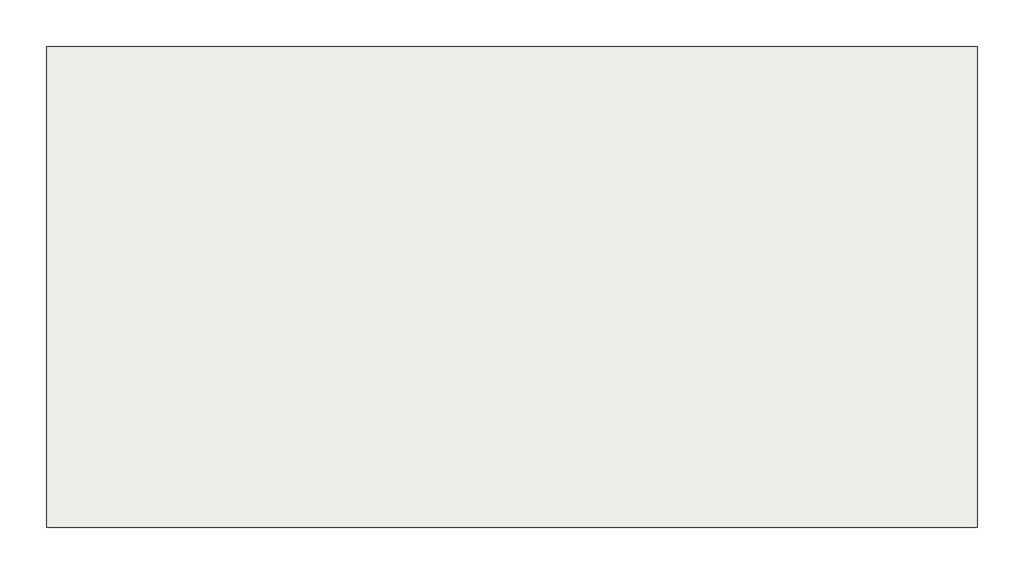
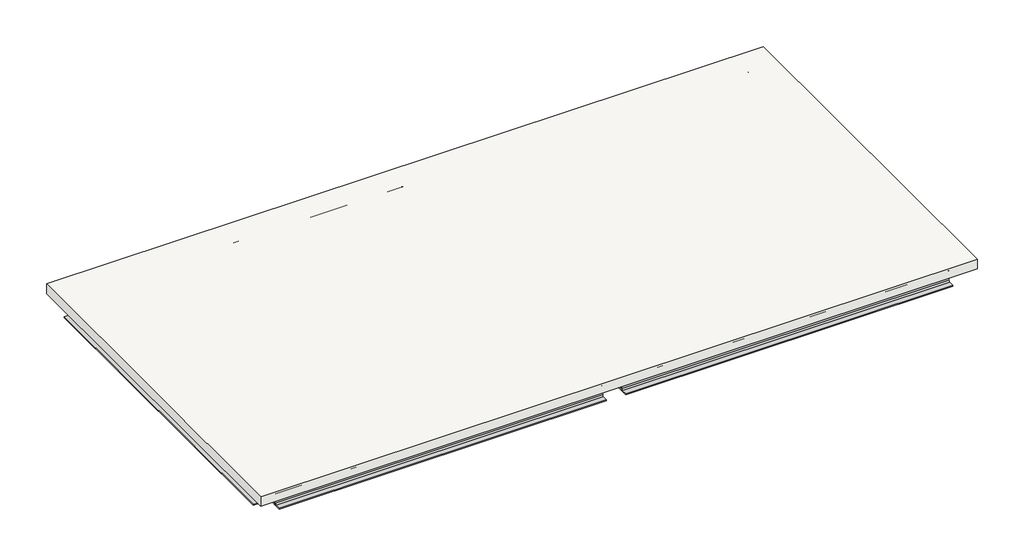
# One storey: 7 beams, 1 slab.
"""IFC4 building model written with IfcOpenShell, lengths in millimetres."""

import ifcopenshell
import ifcopenshell.guid

model = None  # the IFC model being written
_history = None  # IfcOwnerHistory: only IFC2X3 demands one
_inside = {}  # id of a spatial element -> (the spatial element, [elements in it])
_under = {}  # id of a project, library or spatial element -> (it, [spatial elements below it])
_declared = {}  # id of a project -> (the project, [libraries it declares])
_typed = {}  # id of a type object -> (the type object, [elements of that type])
_made_of = {}  # id of a material, layer set ... -> (it, [elements and type objects made of it])


def new_model(schema):
    """Start an empty IFC model of exactly this schema.

    Asked for "IFC4X3", IfcOpenShell would pick the latest addendum, in which some entities
    have other attributes; the version numbers below select the first issue.
    IFC2X3 requires an IfcOwnerHistory on every rooted entity: one is made here for all.
    """
    global model, _history
    if schema == "IFC4X3":
        model = ifcopenshell.file(schema_version=(4, 3, 0, 0))
    else:
        model = ifcopenshell.file(schema=schema)
    _inside.clear()
    _under.clear()
    _declared.clear()
    _typed.clear()
    _made_of.clear()
    _history = None
    if model.schema == "IFC2X3":
        org = make("IfcOrganization", Name="unknown")
        user = make(
            "IfcPersonAndOrganization",
            ThePerson=make("IfcPerson", FamilyName="unknown"),
            TheOrganization=org,
        )
        app = make(
            "IfcApplication",
            ApplicationDeveloper=org,
            Version="unknown",
            ApplicationFullName="unknown",
            ApplicationIdentifier="unknown",
        )
        _history = make(
            "IfcOwnerHistory",
            OwningUser=user,
            OwningApplication=app,
            ChangeAction="ADDED",
            CreationDate=0,
        )
    return model


def make(cls, **values):
    """One entity of the class cls with the attributes given. An attribute that is None is left unset."""
    return model.create_entity(
        cls, **{name: value for name, value in values.items() if value is not None}
    )


def rooted(cls, **values):
    """An entity with a GlobalId (a new one), such as an element, a storey or a relation."""
    return make(cls, GlobalId=ifcopenshell.guid.new(), OwnerHistory=_history, **values)


def si_unit(unit_type, name, prefix=None):
    """IfcSIUnit, for example si_unit("LENGTHUNIT", "METRE", prefix="MILLI")."""
    return make("IfcSIUnit", UnitType=unit_type, Prefix=prefix, Name=name)


def assignment(units):
    """IfcUnitAssignment: the units of a project."""
    return None if units is None else make("IfcUnitAssignment", Units=units)


def point(xyz):
    """IfcCartesianPoint."""
    return None if xyz is None else make("IfcCartesianPoint", Coordinates=xyz)


def direction(xyz):
    """IfcDirection."""
    return None if xyz is None else make("IfcDirection", DirectionRatios=xyz)


def frame(location, z_axis=None, x_axis=None):
    """IfcAxis2Placement3D, a coordinate frame: its origin and axes. An axis left out is left unset."""
    return make(
        "IfcAxis2Placement3D",
        Location=point(location),
        Axis=direction(z_axis),
        RefDirection=direction(x_axis),
    )


def frame_2d(location, x_axis=None):
    """IfcAxis2Placement2D, a coordinate frame in the plane: its origin and x axis."""
    return make(
        "IfcAxis2Placement2D", Location=point(location), RefDirection=direction(x_axis)
    )


def origin():
    """The frame at (0, 0, 0) with its axes left unset."""
    return frame((0.0, 0.0, 0.0))


def place(relative_to, where):
    """IfcLocalPlacement: puts the frame where relative to a parent placement (None: the world)."""
    return make(
        "IfcLocalPlacement", PlacementRelTo=relative_to, RelativePlacement=where
    )


def context(
    kind, dimensions, precision=None, world=None, true_north=None, identifier=None
):
    """IfcGeometricRepresentationContext, for example the 3D "Model" context."""
    return make(
        "IfcGeometricRepresentationContext",
        ContextIdentifier=identifier,
        ContextType=kind,
        CoordinateSpaceDimension=dimensions,
        Precision=precision,
        WorldCoordinateSystem=world,
        TrueNorth=true_north,
    )


def project(units=None, contexts=None):
    """IfcProject with its units and contexts."""
    return rooted(
        "IfcProject",
        Name="project",
        RepresentationContexts=contexts,
        UnitsInContext=assignment(units),
    )


def spatial(cls, under=None, at=None, **own):
    """A site, building, storey or space (cls), placed at a placement, below another one or the project."""
    s = rooted(cls, ObjectPlacement=at, **own)
    if under is not None:
        _under.setdefault(under.id(), (under, []))[1].append(s)
    return s


def polyline(points):
    """IfcPolyline through the points."""
    return make("IfcPolyline", Points=[point(p) for p in points])


def circle_curve(where, radius):
    """IfcCircle in the frame where."""
    return make("IfcCircle", Position=where, Radius=radius)


def trimmed(basis, trim1, trim2, sense, master):
    """IfcTrimmedCurve: the piece of a basis curve between two trims."""
    return make(
        "IfcTrimmedCurve",
        BasisCurve=basis,
        Trim1=trim1,
        Trim2=trim2,
        SenseAgreement=sense,
        MasterRepresentation=master,
    )


def segment(curve, same_sense, transition):
    """IfcCompositeCurveSegment."""
    return make(
        "IfcCompositeCurveSegment",
        Transition=transition,
        SameSense=same_sense,
        ParentCurve=curve,
    )


def composite_curve(segments, self_intersect=None):
    """IfcCompositeCurve: segments joined end to end."""
    return make("IfcCompositeCurve", Segments=segments, SelfIntersect=self_intersect)


def outline(outer, holes=None, kind="AREA"):
    """IfcArbitraryClosedProfileDef: a profile drawn as a closed curve; with holes, ...WithVoids."""
    if holes is None:
        return make("IfcArbitraryClosedProfileDef", ProfileType=kind, OuterCurve=outer)
    return make(
        "IfcArbitraryProfileDefWithVoids",
        ProfileType=kind,
        OuterCurve=outer,
        InnerCurves=holes,
    )


def extrude(swept, where, along, depth):
    """IfcExtrudedAreaSolid: the profile swept, set in the frame where, extruded along a direction by depth."""
    return make(
        "IfcExtrudedAreaSolid",
        SweptArea=swept,
        Position=where,
        ExtrudedDirection=direction(along),
        Depth=depth,
    )


def shape(context_of_items, identifier, shape_type, items):
    """IfcShapeRepresentation: the items that make up one representation, for example the "Body"."""
    return make(
        "IfcShapeRepresentation",
        ContextOfItems=context_of_items,
        RepresentationIdentifier=identifier,
        RepresentationType=shape_type,
        Items=items,
    )


def source(mapping_origin, context_of_items, identifier, shape_type, items):
    """IfcRepresentationMap: a shape defined once, which mapped items show again and again."""
    return make(
        "IfcRepresentationMap",
        MappingOrigin=mapping_origin,
        MappedRepresentation=shape(context_of_items, identifier, shape_type, items),
    )


def transform(
    local_origin,
    x_axis=None,
    y_axis=None,
    z_axis=None,
    scale=None,
    scale2=None,
    scale3=None,
    uniform=True,
):
    """IfcCartesianTransformationOperator3D, or its non-uniform kind. x_axis, y_axis, z_axis: its Axis1, 2, 3."""
    if uniform:
        return make(
            "IfcCartesianTransformationOperator3D",
            Axis1=direction(x_axis),
            Axis2=direction(y_axis),
            LocalOrigin=point(local_origin),
            Scale=scale,
            Axis3=direction(z_axis),
        )
    return make(
        "IfcCartesianTransformationOperator3DnonUniform",
        Axis1=direction(x_axis),
        Axis2=direction(y_axis),
        LocalOrigin=point(local_origin),
        Scale=scale,
        Axis3=direction(z_axis),
        Scale2=scale2,
        Scale3=scale3,
    )


def mapped(mapping_source, mapping_target):
    """IfcMappedItem: shows the shape of a source again, moved by a transform."""
    return make(
        "IfcMappedItem", MappingSource=mapping_source, MappingTarget=mapping_target
    )


def made_of(thing, what):
    """Note that an element or type object is made of a material, layer set ...; save() writes the relation."""
    if what is not None:
        _made_of.setdefault(what.id(), (what, []))[1].append(thing)
    return thing


def element(
    cls,
    number,
    at=None,
    inside=None,
    cuts=None,
    type_object=None,
    material=None,
    context=None,
    identifier="Body",
    shape_type=None,
    held_by="IfcProductDefinitionShape",
    body=None,
    shapes=None,
    **own,
):
    """One element of the class cls, such as IfcWall. Its Tag is "e" and its number.

    at: its placement. inside: the storey or other place that contains it. cuts: it is an
    opening in that element (IfcRelVoidsElement). A single representation is given by context,
    identifier, shape_type and body (its items); several are given by shapes. held_by: the class
    of the entity that holds the representations. save() writes the other relations.
    """
    e = rooted(cls, Tag="e%d" % number, ObjectPlacement=at, **own)
    if body is not None:
        shapes = [shape(context, identifier, shape_type, body)]
    if shapes is not None:
        e.Representation = make(held_by, Representations=shapes)
    if inside is not None:
        _inside.setdefault(inside.id(), (inside, []))[1].append(e)
    if cuts is not None:
        rooted(
            "IfcRelVoidsElement", RelatingBuildingElement=cuts, RelatedOpeningElement=e
        )
    if type_object is not None:
        _typed.setdefault(type_object.id(), (type_object, []))[1].append(e)
    return made_of(e, material)


def aggregate(whole, parts):
    """IfcRelAggregates: a whole, such as a stair, and the parts it consists of."""
    return rooted("IfcRelAggregates", RelatingObject=whole, RelatedObjects=parts)


def save(model, path):
    """Write the relations noted so far, then the file.

    IfcRelAggregates (storeys below a building ...), IfcRelContainedInSpatialStructure (elements
    in a storey), IfcRelDefinesByType, IfcRelAssociatesMaterial and IfcRelDeclares: one each for
    every whole, place, type object, material and project.
    """
    for whole, parts in _under.values():
        aggregate(whole, parts)
    for where, things in _inside.values():
        rooted(
            "IfcRelContainedInSpatialStructure",
            RelatedElements=things,
            RelatingStructure=where,
        )
    for kind, things in _typed.values():
        rooted("IfcRelDefinesByType", RelatedObjects=things, RelatingType=kind)
    for what, things in _made_of.values():
        rooted("IfcRelAssociatesMaterial", RelatedObjects=things, RelatingMaterial=what)
    for by, libraries in _declared.values():
        rooted("IfcRelDeclares", RelatingContext=by, RelatedDefinitions=libraries)
    model.write(path)


def heb200_d26bcb9a(model_context):
    return source(origin(), model_context, "Body", "SweptSolid", [
        extrude(outline(composite_curve([segment(polyline([(100.0, -85.0), (100.0, -100.0), (-100.0, -100.0), (-100.0, -85.0), (-22.5, -85.0)]), True, "CONTINUOUS"), segment(trimmed(circle_curve(frame_2d((-22.5, -67.0)), 18.0), [point((-22.5, -85.0))], [point((-4.5, -67.0))], True, "CARTESIAN"), True, "CONTINUOUS"), segment(polyline([(-4.5, -67.0), (-4.5, 67.0)]), True, "CONTINUOUS"), segment(trimmed(circle_curve(frame_2d((-22.5, 67.0)), 18.0), [point((-4.5, 67.0))], [point((-22.5, 85.0))], True, "CARTESIAN"), True, "CONTINUOUS"), segment(polyline([(-22.5, 85.0), (-100.0, 85.0), (-100.0, 100.0), (100.0, 100.0), (100.0, 85.0), (22.5, 85.0)]), True, "CONTINUOUS"), segment(trimmed(circle_curve(frame_2d((22.5, 67.0)), 18.0), [point((22.5, 85.0))], [point((4.5, 67.0))], True, "CARTESIAN"), True, "CONTINUOUS"), segment(polyline([(4.5, 67.0), (4.5, -67.0)]), True, "CONTINUOUS"), segment(trimmed(circle_curve(frame_2d((22.5, -67.0)), 18.0), [point((4.5, -67.0))], [point((22.5, -85.0))], True, "CARTESIAN"), True, "CONTINUOUS"), segment(polyline([(22.5, -85.0), (100.0, -85.0)]), True, "CONTINUOUS")], self_intersect=False)), frame((-2362.3, 0.0, 0.0), z_axis=(1.0, 0.0, 0.0), x_axis=(0.0, 1.0, 0.0)), (0.0, 0.0, 1.0), 4724.6),
    ])


model = new_model("IFC4")

# Units and contexts
model_context = context("Model", 3, world=origin())
ifc_project = project(units=[si_unit("LENGTHUNIT", "METRE", prefix="MILLI")], contexts=[model_context])

# Site, building, storey
site = spatial("IfcSite", under=ifc_project)
building = spatial("IfcBuilding", under=site)
storey = spatial("IfcBuildingStorey", under=building, Name="R階", Elevation=7400.0)

# Beams
placement = place(None, origin())
heb200_shape = heb200_d26bcb9a(model_context)
element("IfcBeam", 1, ObjectType="HE-B : HEB200", at=placement, inside=storey, context=model_context, shape_type="MappedRepresentation", body=[
    mapped(heb200_shape, transform((-5047.3880564, 86.0382733, 7150.0), x_axis=(0.0, -1.0, 0.0), y_axis=(1.0, 0.0, 0.0), z_axis=(0.0, 0.0, 1.0))),
])
element("IfcBeam", 2, ObjectType="HE-B : HEB200", at=placement, inside=storey, context=model_context, shape_type="MappedRepresentation", body=[
    mapped(heb200_shape, transform((-47.3880564, 86.0382733, 7150.0), x_axis=(0.0, -1.0, 0.0), y_axis=(1.0, 0.0, 0.0), z_axis=(0.0, 0.0, 1.0))),
])
element("IfcBeam", 3, ObjectType="HE-B : HEB200", at=placement, inside=storey, context=model_context, shape_type="MappedRepresentation", body=[
    mapped(heb200_shape, transform((4952.6119436, 86.0382733, 7150.0), x_axis=(0.0, -1.0, 0.0), y_axis=(1.0, 0.0, 0.0), z_axis=(0.0, 0.0, 1.0))),
])
element("IfcBeam", 4, ObjectType="HE-B : HEB200", at=placement, inside=storey, context=model_context, shape_type="MappedRepresentation", body=[
    mapped(heb200_shape, transform((2452.6119436, -2413.9617267, 7150.0), x_axis=(-1.0, 0.0, 0.0), y_axis=(0.0, -1.0, 0.0), z_axis=(0.0, 0.0, 1.0))),
])
element("IfcBeam", 5, ObjectType="HE-B : HEB200", at=placement, inside=storey, context=model_context, shape_type="MappedRepresentation", body=[
    mapped(heb200_shape, transform((-2547.3880564, -2413.9617267, 7150.0), x_axis=(-1.0, 0.0, 0.0), y_axis=(0.0, -1.0, 0.0), z_axis=(0.0, 0.0, 1.0))),
])
element("IfcBeam", 6, ObjectType="HE-B : HEB200", at=placement, inside=storey, context=model_context, shape_type="MappedRepresentation", body=[
    mapped(heb200_shape, transform((2452.6119436, 2586.0382733, 7150.0), x_axis=(-1.0, 0.0, 0.0), y_axis=(0.0, -1.0, 0.0), z_axis=(0.0, 0.0, 1.0))),
])
element("IfcBeam", 7, ObjectType="HE-B : HEB200", at=placement, inside=storey, context=model_context, shape_type="MappedRepresentation", body=[
    mapped(heb200_shape, transform((-2547.3880564, 2586.0382733, 7150.0), x_axis=(-1.0, 0.0, 0.0), y_axis=(0.0, -1.0, 0.0), z_axis=(0.0, 0.0, 1.0))),
])

# Slab
element("IfcSlab", 8, ObjectType="一般 150 mm", at=placement, inside=storey, context=model_context, shape_type="SweptSolid", body=[
    extrude(outline(polyline([(5127.6119436, 2761.0382733), (5127.6119436, -2588.9617267), (-5222.3880564, -2588.9617267), (-5222.3880564, 2761.0382733), (5127.6119436, 2761.0382733)])), frame((0.0, 0.0, 7250.0), z_axis=(0.0, 0.0, 1.0), x_axis=(1.0, 0.0, 0.0)), (0.0, 0.0, 1.0), 150.0),
])

save(model, "model.ifc")
